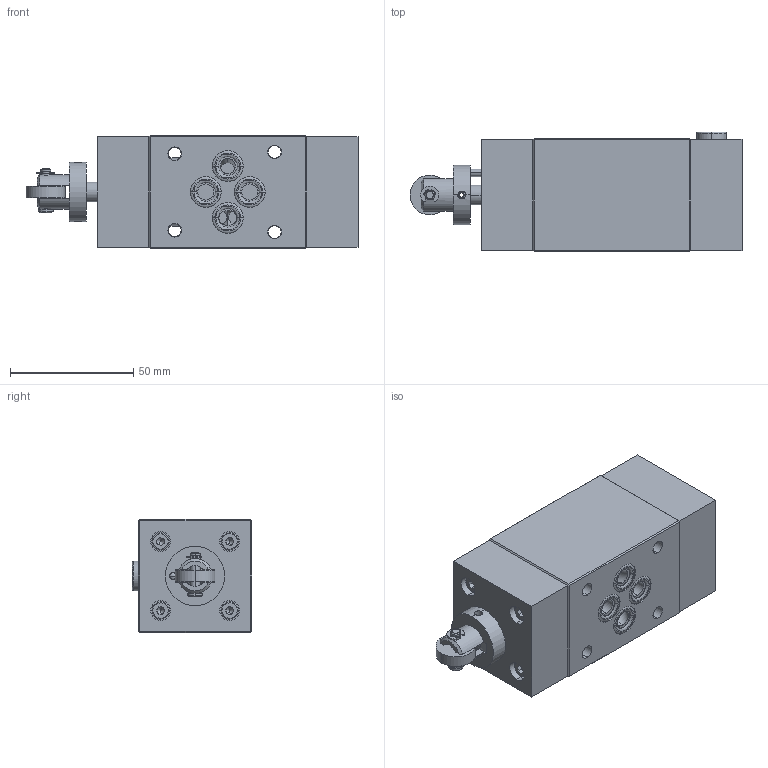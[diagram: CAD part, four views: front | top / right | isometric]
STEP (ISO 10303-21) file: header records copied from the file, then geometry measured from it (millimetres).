
FILE_DESCRIPTION (( 'STEP AP214' ), '1' );
FILE_NAME ('AT4.6.Aside.STEP', '2017-03-06T06:03:42', ( '' ), ( '' ), 'SwSTEP 2.0', 'SolidWorks 2016', '' );
FILE_SCHEMA (( 'AUTOMOTIVE_DESIGN' ));
Length unit declared in the file: millimetre
Products named in the file (1): AT4.6.Aside
Bounding box: 134.6 x 48.5 x 46 mm (x, y, z)
Volume: 216301.4 mm3; surface area: 38622.7 mm2
Topology: 11 solids, 19 shells, 1464 faces, 3979 edges, 2578 vertices
Faces by surface type: plane 709, cylinder 593, cone 73, bspline 51, torus 34, sphere 4
Entity records: 64913 total; most frequent: CARTESIAN_POINT 11237, DIRECTION 8001, ORIENTED_EDGE 7906, EDGE_CURVE 3953, AXIS2_PLACEMENT_3D 2842, VERTEX_POINT 2578, VECTOR 2317, LINE 2317
